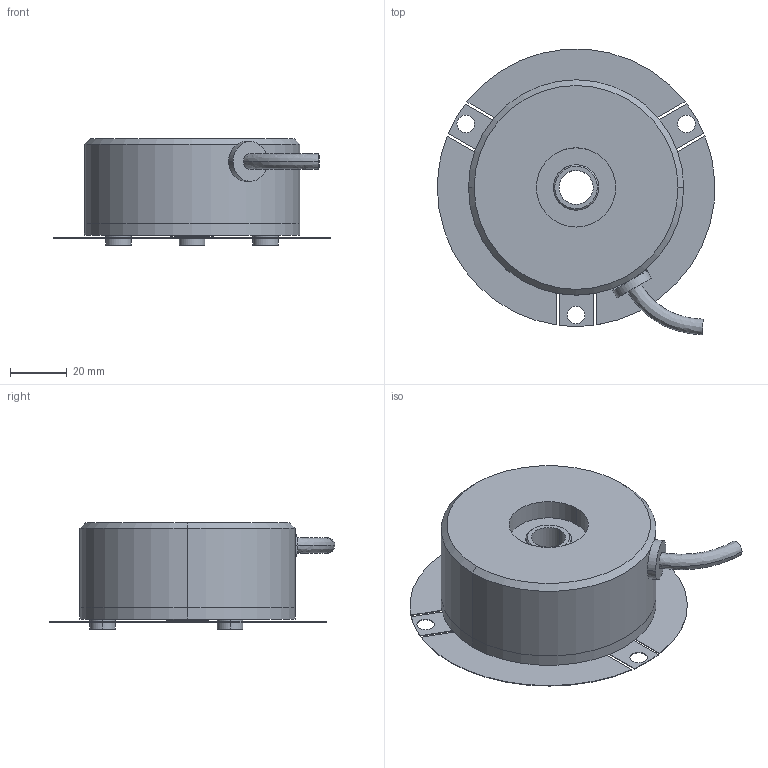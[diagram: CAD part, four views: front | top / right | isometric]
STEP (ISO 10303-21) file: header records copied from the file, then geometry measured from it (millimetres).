
FILE_DESCRIPTION (( 'STEP AP214' ), '1' );
FILE_NAME ('A_Assem2.STEP', '2024-08-21T01:00:06', ( '' ), ( '' ), 'SwSTEP 2.0', 'SolidWorks 2023', '' );
FILE_SCHEMA (( 'AUTOMOTIVE_DESIGN' ));
Length unit declared in the file: millimetre
Products named in the file (9): Flat Head SCREW M4 X8 MM; A_Part3; A_Assem1; 座金A M4_2.4mm厚; A_Part1; A_Part4; A_Part2; 座金B M4_1mm厚; A_Assem2
Assembly tree (14 placements, depth 3):
  A_Assem2
    A_Assem1
      A_Part1
      A_Part2
      A_Part3
    A_Part4
    座金B M4_1mm厚  x3
    座金A M4_2.4mm厚  x3
    Flat Head SCREW M4 X8 MM  x3
Bounding box: 97.93 x 100.83 x 37.6 mm (x, y, z)
Volume: 149462.8 mm3; surface area: 45866.3 mm2
Topology: 14 solids, 14 shells, 195 faces, 489 edges, 330 vertices
Faces by surface type: cylinder 91, plane 66, cone 24, bspline 14
Entity records: 4365 total; most frequent: CARTESIAN_POINT 882, DIRECTION 727, ORIENTED_EDGE 618, EDGE_CURVE 309, AXIS2_PLACEMENT_3D 283, VERTEX_POINT 206, LINE 161, EDGE_LOOP 161
